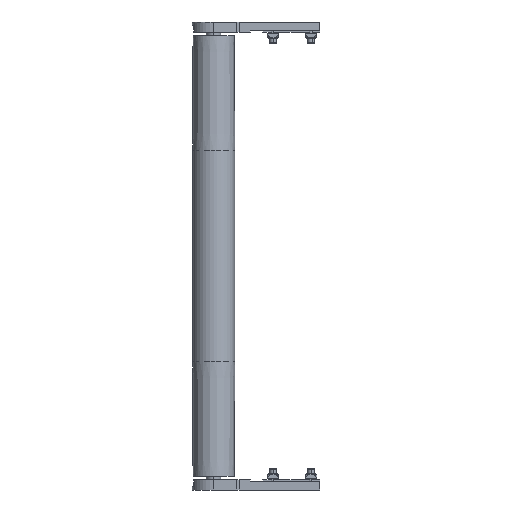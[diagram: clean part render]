
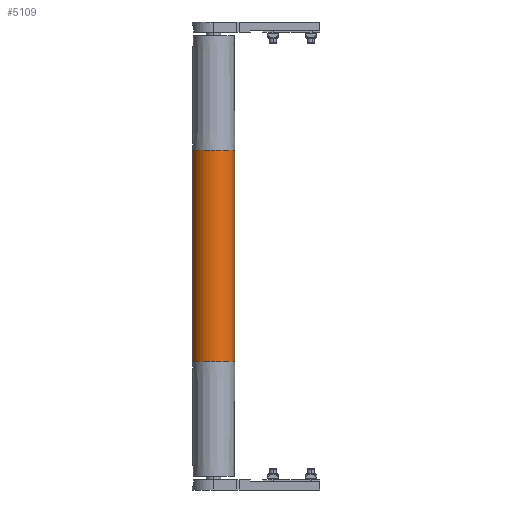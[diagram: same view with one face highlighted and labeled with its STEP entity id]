
A CAD part, front view. The second image highlights one B-rep face of the part: STEP entity #5109.
In plain terms, the highlighted cylindrical face has radius 24.9 mm (diameter 49.8 mm), a partial arc.
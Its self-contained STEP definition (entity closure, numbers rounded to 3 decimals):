
#70 = CARTESIAN_POINT ( 'NONE',  ( -125., 0., -24.9 ) ) ;
#331 = VERTEX_POINT ( 'NONE', #70 ) ;
#434 = CIRCLE ( 'NONE', #5748, 24.9 ) ;
#718 = CARTESIAN_POINT ( 'NONE',  ( -125., 0., 0. ) ) ;
#868 = CARTESIAN_POINT ( 'NONE',  ( -260., 0., 0. ) ) ;
#1189 = ORIENTED_EDGE ( 'NONE', *, *, #6071, .F. ) ;
#1210 = CARTESIAN_POINT ( 'NONE',  ( 125., 0., -24.9 ) ) ;
#1818 = VERTEX_POINT ( 'NONE', #6724 ) ;
#1953 = DIRECTION ( 'NONE',  ( -1., 0., 0. ) ) ;
#2025 = DIRECTION ( 'NONE',  ( -1., 0., 0. ) ) ;
#2267 = AXIS2_PLACEMENT_3D ( 'NONE', #868, #2025, #6779 ) ;
#2351 = DIRECTION ( 'NONE',  ( -1., 0., 0. ) ) ;
#2381 = DIRECTION ( 'NONE',  ( -1., 0., 0. ) ) ;
#2479 = ORIENTED_EDGE ( 'NONE', *, *, #3003, .T. ) ;
#2493 = AXIS2_PLACEMENT_3D ( 'NONE', #5885, #2351, #6484 ) ;
#2798 = CIRCLE ( 'NONE', #2493, 24.9 ) ;
#3003 = EDGE_CURVE ( 'NONE', #5598, #1818, #2798, .T. ) ;
#3097 = EDGE_CURVE ( 'NONE', #1818, #4317, #5639, .T. ) ;
#3473 = CYLINDRICAL_SURFACE ( 'NONE', #2267, 24.9 ) ;
#3581 = CARTESIAN_POINT ( 'NONE',  ( -125., 0., 24.9 ) ) ;
#3836 = FACE_OUTER_BOUND ( 'NONE', #4847, .T. ) ;
#4317 = VERTEX_POINT ( 'NONE', #3581 ) ;
#4821 = ORIENTED_EDGE ( 'NONE', *, *, #7058, .F. ) ;
#4847 = EDGE_LOOP ( 'NONE', ( #1189, #2479, #5368, #4821 ) ) ;
#5109 = ADVANCED_FACE ( 'NONE', ( #3836 ), #3473, .T. ) ;
#5368 = ORIENTED_EDGE ( 'NONE', *, *, #3097, .T. ) ;
#5598 = VERTEX_POINT ( 'NONE', #1210 ) ;
#5639 = LINE ( 'NONE', #7648, #7032 ) ;
#5748 = AXIS2_PLACEMENT_3D ( 'NONE', #718, #1953, #6098 ) ;
#5885 = CARTESIAN_POINT ( 'NONE',  ( 125., 0., 0. ) ) ;
#6071 = EDGE_CURVE ( 'NONE', #5598, #331, #7416, .T. ) ;
#6098 = DIRECTION ( 'NONE',  ( 0., 0., 1. ) ) ;
#6484 = DIRECTION ( 'NONE',  ( 0., 0., 1. ) ) ;
#6724 = CARTESIAN_POINT ( 'NONE',  ( 125., 0., 24.9 ) ) ;
#6779 = DIRECTION ( 'NONE',  ( 0., 0., 1. ) ) ;
#7032 = VECTOR ( 'NONE', #2381, 1000. ) ;
#7058 = EDGE_CURVE ( 'NONE', #331, #4317, #434, .T. ) ;
#7137 = DIRECTION ( 'NONE',  ( -1., 0., 0. ) ) ;
#7416 = LINE ( 'NONE', #7534, #7507 ) ;
#7507 = VECTOR ( 'NONE', #7137, 1000. ) ;
#7534 = CARTESIAN_POINT ( 'NONE',  ( -260., 0., -24.9 ) ) ;
#7648 = CARTESIAN_POINT ( 'NONE',  ( -260., 0., 24.9 ) ) ;
